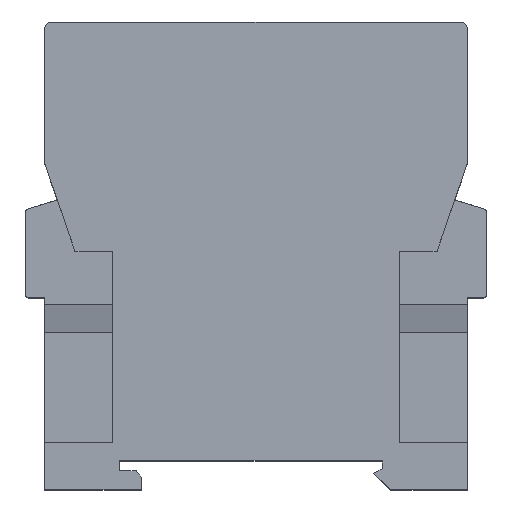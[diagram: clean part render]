
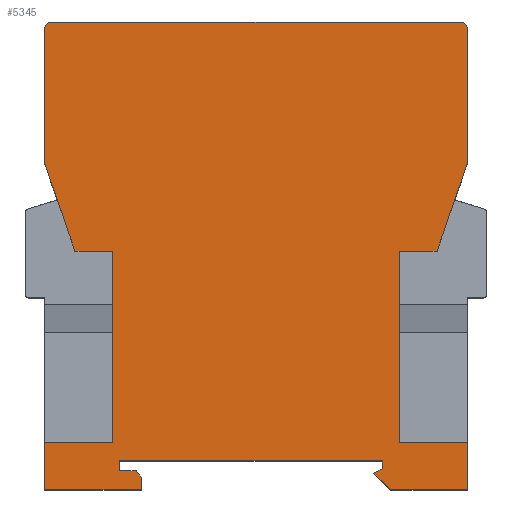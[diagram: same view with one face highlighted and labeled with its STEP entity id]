
A CAD part, top view. The second image highlights one B-rep face of the part: STEP entity #5345.
In plain terms, the highlighted planar face has unit normal (0, 0, 1).
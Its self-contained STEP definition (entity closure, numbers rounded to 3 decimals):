
#185=CIRCLE('',#5708,1.);
#188=CIRCLE('',#5724,0.5);
#190=CIRCLE('',#5727,1.);
#191=CIRCLE('',#5729,0.5);
#1214=ORIENTED_EDGE('',*,*,#2414,.F.);
#1215=ORIENTED_EDGE('',*,*,#2260,.F.);
#1216=ORIENTED_EDGE('',*,*,#2256,.T.);
#1217=ORIENTED_EDGE('',*,*,#2415,.T.);
#1218=ORIENTED_EDGE('',*,*,#2416,.T.);
#1219=ORIENTED_EDGE('',*,*,#2417,.T.);
#1220=ORIENTED_EDGE('',*,*,#2370,.T.);
#1221=ORIENTED_EDGE('',*,*,#2367,.T.);
#1222=ORIENTED_EDGE('',*,*,#2413,.T.);
#1223=ORIENTED_EDGE('',*,*,#2418,.T.);
#1224=ORIENTED_EDGE('',*,*,#2410,.T.);
#1225=ORIENTED_EDGE('',*,*,#2419,.T.);
#1226=ORIENTED_EDGE('',*,*,#2316,.F.);
#1227=ORIENTED_EDGE('',*,*,#2309,.F.);
#1228=ORIENTED_EDGE('',*,*,#2329,.T.);
#1229=ORIENTED_EDGE('',*,*,#2405,.T.);
#1230=ORIENTED_EDGE('',*,*,#2398,.T.);
#1231=ORIENTED_EDGE('',*,*,#2395,.T.);
#1232=ORIENTED_EDGE('',*,*,#2392,.T.);
#1233=ORIENTED_EDGE('',*,*,#2389,.T.);
#1234=ORIENTED_EDGE('',*,*,#2386,.T.);
#1235=ORIENTED_EDGE('',*,*,#2383,.T.);
#1236=ORIENTED_EDGE('',*,*,#2380,.T.);
#1237=ORIENTED_EDGE('',*,*,#2377,.T.);
#1238=ORIENTED_EDGE('',*,*,#2374,.T.);
#1239=ORIENTED_EDGE('',*,*,#2420,.T.);
#1240=ORIENTED_EDGE('',*,*,#2421,.T.);
#2256=EDGE_CURVE('',#2885,#2886,#3442,.T.);
#2260=EDGE_CURVE('',#2885,#2889,#3446,.T.);
#2309=EDGE_CURVE('',#2927,#2928,#3491,.T.);
#2316=EDGE_CURVE('',#2928,#2932,#3498,.T.);
#2329=EDGE_CURVE('',#2927,#2944,#3511,.T.);
#2367=EDGE_CURVE('',#2972,#2971,#3543,.T.);
#2370=EDGE_CURVE('',#2974,#2972,#185,.T.);
#2374=EDGE_CURVE('',#2978,#2977,#3548,.T.);
#2377=EDGE_CURVE('',#2980,#2978,#3551,.T.);
#2380=EDGE_CURVE('',#2982,#2980,#3554,.T.);
#2383=EDGE_CURVE('',#2984,#2982,#3557,.T.);
#2386=EDGE_CURVE('',#2986,#2984,#3560,.T.);
#2389=EDGE_CURVE('',#2988,#2986,#3563,.T.);
#2392=EDGE_CURVE('',#2990,#2988,#3566,.T.);
#2395=EDGE_CURVE('',#2992,#2990,#3569,.T.);
#2398=EDGE_CURVE('',#2994,#2992,#3572,.T.);
#2405=EDGE_CURVE('',#2944,#2994,#3577,.T.);
#2410=EDGE_CURVE('',#2995,#2996,#188,.T.);
#2413=EDGE_CURVE('',#2971,#2998,#190,.T.);
#2414=EDGE_CURVE('',#2889,#2999,#3583,.T.);
#2415=EDGE_CURVE('',#2886,#3000,#3584,.T.);
#2416=EDGE_CURVE('',#3000,#3001,#191,.T.);
#2417=EDGE_CURVE('',#3001,#2974,#3585,.T.);
#2418=EDGE_CURVE('',#2998,#2995,#3586,.T.);
#2419=EDGE_CURVE('',#2996,#2932,#3587,.T.);
#2420=EDGE_CURVE('',#2977,#3002,#3588,.T.);
#2421=EDGE_CURVE('',#3002,#2999,#3589,.T.);
#2885=VERTEX_POINT('',#8369);
#2886=VERTEX_POINT('',#8370);
#2889=VERTEX_POINT('',#8378);
#2927=VERTEX_POINT('',#8475);
#2928=VERTEX_POINT('',#8477);
#2932=VERTEX_POINT('',#8487);
#2944=VERTEX_POINT('',#8516);
#2971=VERTEX_POINT('',#8591);
#2972=VERTEX_POINT('',#8593);
#2974=VERTEX_POINT('',#8599);
#2977=VERTEX_POINT('',#8606);
#2978=VERTEX_POINT('',#8608);
#2980=VERTEX_POINT('',#8614);
#2982=VERTEX_POINT('',#8620);
#2984=VERTEX_POINT('',#8626);
#2986=VERTEX_POINT('',#8632);
#2988=VERTEX_POINT('',#8638);
#2990=VERTEX_POINT('',#8644);
#2992=VERTEX_POINT('',#8650);
#2994=VERTEX_POINT('',#8656);
#2995=VERTEX_POINT('',#8671);
#2996=VERTEX_POINT('',#8673);
#2998=VERTEX_POINT('',#8679);
#2999=VERTEX_POINT('',#8683);
#3000=VERTEX_POINT('',#8685);
#3001=VERTEX_POINT('',#8687);
#3002=VERTEX_POINT('',#8692);
#3442=LINE('',#8368,#4079);
#3446=LINE('',#8377,#4083);
#3491=LINE('',#8476,#4128);
#3498=LINE('',#8490,#4135);
#3511=LINE('',#8517,#4148);
#3543=LINE('',#8592,#4180);
#3548=LINE('',#8607,#4185);
#3551=LINE('',#8613,#4188);
#3554=LINE('',#8619,#4191);
#3557=LINE('',#8625,#4194);
#3560=LINE('',#8631,#4197);
#3563=LINE('',#8637,#4200);
#3566=LINE('',#8643,#4203);
#3569=LINE('',#8649,#4206);
#3572=LINE('',#8655,#4209);
#3577=LINE('',#8664,#4214);
#3583=LINE('',#8682,#4220);
#3584=LINE('',#8684,#4221);
#3585=LINE('',#8688,#4222);
#3586=LINE('',#8689,#4223);
#3587=LINE('',#8690,#4224);
#3588=LINE('',#8691,#4225);
#3589=LINE('',#8693,#4226);
#4079=VECTOR('',#6710,1000.);
#4083=VECTOR('',#6716,1000.);
#4128=VECTOR('',#6791,1000.);
#4135=VECTOR('',#6800,1000.);
#4148=VECTOR('',#6819,1000.);
#4180=VECTOR('',#6883,1000.);
#4185=VECTOR('',#6896,1000.);
#4188=VECTOR('',#6901,1000.);
#4191=VECTOR('',#6906,1000.);
#4194=VECTOR('',#6911,1000.);
#4197=VECTOR('',#6916,1000.);
#4200=VECTOR('',#6921,1000.);
#4203=VECTOR('',#6926,1000.);
#4206=VECTOR('',#6931,1000.);
#4209=VECTOR('',#6936,1000.);
#4214=VECTOR('',#6947,1000.);
#4220=VECTOR('',#6969,1000.);
#4221=VECTOR('',#6970,1000.);
#4222=VECTOR('',#6973,1000.);
#4223=VECTOR('',#6974,1000.);
#4224=VECTOR('',#6975,1000.);
#4225=VECTOR('',#6976,1000.);
#4226=VECTOR('',#6977,1000.);
#4516=EDGE_LOOP('',(#1214,#1215,#1216,#1217,#1218,#1219,#1220,#1221,#1222,
#1223,#1224,#1225,#1226,#1227,#1228,#1229,#1230,#1231,#1232,#1233,#1234,
#1235,#1236,#1237,#1238,#1239,#1240));
#4825=FACE_BOUND('',#4516,.T.);
#5090=PLANE('',#5728);
#5345=ADVANCED_FACE('',(#4825),#5090,.F.);
#5708=AXIS2_PLACEMENT_3D('',#8598,#6889,#6890);
#5724=AXIS2_PLACEMENT_3D('',#8674,#6958,#6959);
#5727=AXIS2_PLACEMENT_3D('',#8680,#6965,#6966);
#5728=AXIS2_PLACEMENT_3D('',#8681,#6967,#6968);
#5729=AXIS2_PLACEMENT_3D('',#8686,#6971,#6972);
#6710=DIRECTION('',(1.,0.,0.));
#6716=DIRECTION('',(0.,-1.,0.));
#6791=DIRECTION('',(0.,1.,0.));
#6800=DIRECTION('',(-1.,0.,0.));
#6819=DIRECTION('',(-1.,0.,0.));
#6883=DIRECTION('',(-1.,0.,0.));
#6889=DIRECTION('',(0.,0.,1.));
#6890=DIRECTION('',(1.,0.,0.));
#6896=DIRECTION('',(0.739,-0.674,0.));
#6901=DIRECTION('',(-0.883,-0.469,0.));
#6906=DIRECTION('',(0.,-1.,0.));
#6911=DIRECTION('',(1.,0.,0.));
#6916=DIRECTION('',(0.,1.,0.));
#6921=DIRECTION('',(-1.,0.,0.));
#6926=DIRECTION('',(-0.623,0.782,0.));
#6931=DIRECTION('',(0.,1.,0.));
#6936=DIRECTION('',(1.,0.,0.));
#6947=DIRECTION('',(0.,-1.,0.));
#6958=DIRECTION('',(0.,0.,1.));
#6959=DIRECTION('',(-1.,0.,0.));
#6965=DIRECTION('',(0.,0.,1.));
#6966=DIRECTION('',(-1.,0.,0.));
#6967=DIRECTION('',(0.,0.,-1.));
#6968=DIRECTION('',(-1.,0.,0.));
#6969=DIRECTION('',(1.,0.,0.));
#6970=DIRECTION('',(0.326,0.946,0.));
#6971=DIRECTION('',(0.,0.,1.));
#6972=DIRECTION('',(1.,0.,0.));
#6973=DIRECTION('',(0.,1.,0.));
#6974=DIRECTION('',(0.,-1.,0.));
#6975=DIRECTION('',(0.326,-0.946,0.));
#6976=DIRECTION('',(1.,0.,0.));
#6977=DIRECTION('',(0.,1.,0.));
#8368=CARTESIAN_POINT('',(20.,33.3,22.5));
#8369=CARTESIAN_POINT('',(20.,33.3,22.5));
#8370=CARTESIAN_POINT('',(25.299,33.3,22.5));
#8377=CARTESIAN_POINT('',(20.,0.,22.5));
#8378=CARTESIAN_POINT('',(20.,6.5,22.5));
#8475=CARTESIAN_POINT('',(-20.,6.5,22.5));
#8476=CARTESIAN_POINT('',(-20.,0.,22.5));
#8477=CARTESIAN_POINT('',(-20.,33.3,22.5));
#8487=CARTESIAN_POINT('',(-25.299,33.3,22.5));
#8490=CARTESIAN_POINT('',(-20.,33.3,22.5));
#8516=CARTESIAN_POINT('',(-29.5,6.5,22.5));
#8517=CARTESIAN_POINT('',(14.359,6.5,22.5));
#8591=CARTESIAN_POINT('',(-28.5,65.3,22.5));
#8592=CARTESIAN_POINT('',(-28.5,65.3,22.5));
#8593=CARTESIAN_POINT('',(28.5,65.3,22.5));
#8598=CARTESIAN_POINT('',(28.5,64.3,22.5));
#8599=CARTESIAN_POINT('',(29.5,64.3,22.5));
#8606=CARTESIAN_POINT('',(18.85,0.,22.5));
#8607=CARTESIAN_POINT('',(18.85,0.,22.5));
#8608=CARTESIAN_POINT('',(16.4,2.235,22.5));
#8613=CARTESIAN_POINT('',(16.4,2.235,22.5));
#8614=CARTESIAN_POINT('',(17.65,2.9,22.5));
#8619=CARTESIAN_POINT('',(17.65,2.9,22.5));
#8620=CARTESIAN_POINT('',(17.65,4.,22.5));
#8625=CARTESIAN_POINT('',(17.65,4.,22.5));
#8626=CARTESIAN_POINT('',(-19.05,4.,22.5));
#8631=CARTESIAN_POINT('',(-19.05,4.,22.5));
#8632=CARTESIAN_POINT('',(-19.05,2.6,22.5));
#8637=CARTESIAN_POINT('',(-19.05,2.6,22.5));
#8638=CARTESIAN_POINT('',(-16.742,2.6,22.5));
#8643=CARTESIAN_POINT('',(-16.742,2.6,22.5));
#8644=CARTESIAN_POINT('',(-16.05,1.73,22.5));
#8649=CARTESIAN_POINT('',(-16.05,1.73,22.5));
#8650=CARTESIAN_POINT('',(-16.05,0.,22.5));
#8655=CARTESIAN_POINT('',(-16.05,0.,22.5));
#8656=CARTESIAN_POINT('',(-29.5,0.,22.5));
#8664=CARTESIAN_POINT('',(-29.5,0.,22.5));
#8671=CARTESIAN_POINT('',(-29.5,45.584,22.5));
#8673=CARTESIAN_POINT('',(-29.473,45.421,22.5));
#8674=CARTESIAN_POINT('',(-29.,45.584,22.5));
#8679=CARTESIAN_POINT('',(-29.5,64.3,22.5));
#8680=CARTESIAN_POINT('',(-28.5,64.3,22.5));
#8681=CARTESIAN_POINT('',(-28.5,64.3,22.5));
#8682=CARTESIAN_POINT('',(-14.359,6.5,22.5));
#8683=CARTESIAN_POINT('',(29.5,6.5,22.5));
#8684=CARTESIAN_POINT('',(27.763,40.456,22.5));
#8685=CARTESIAN_POINT('',(29.473,45.421,22.5));
#8686=CARTESIAN_POINT('',(29.,45.584,22.5));
#8687=CARTESIAN_POINT('',(29.5,45.584,22.5));
#8688=CARTESIAN_POINT('',(29.5,45.584,22.5));
#8689=CARTESIAN_POINT('',(-29.5,45.584,22.5));
#8690=CARTESIAN_POINT('',(-27.763,40.456,22.5));
#8691=CARTESIAN_POINT('',(29.5,0.,22.5));
#8692=CARTESIAN_POINT('',(29.5,0.,22.5));
#8693=CARTESIAN_POINT('',(29.5,0.,22.5));
